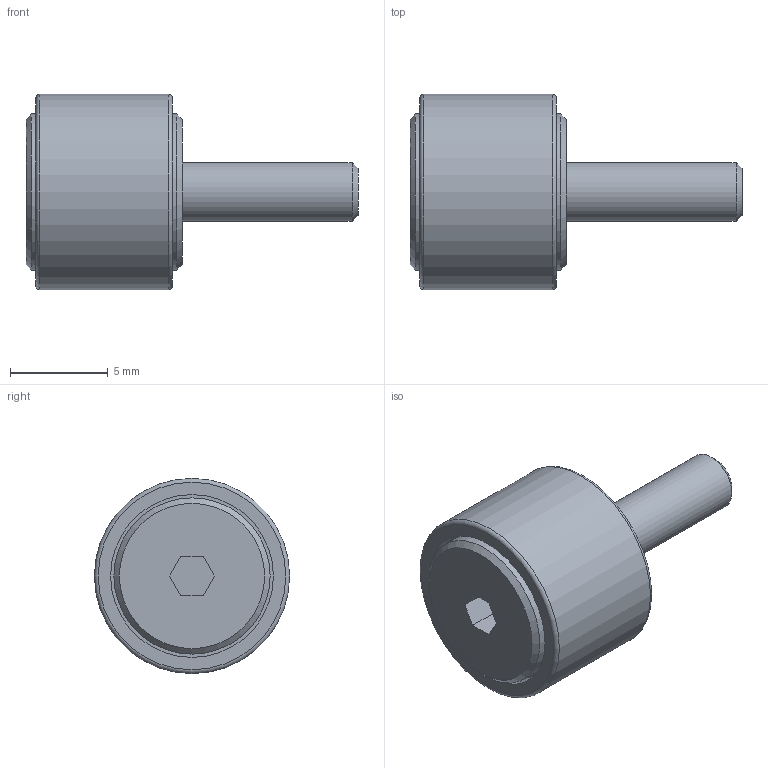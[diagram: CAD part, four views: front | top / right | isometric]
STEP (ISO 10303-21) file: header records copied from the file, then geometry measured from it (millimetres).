
FILE_DESCRIPTION(/* description */ ('Cam Follower with a Hexagon Socket Model CF-A-'),/* implementation_level */ '2;1');
FILE_NAME(/* name */ '',/* time_stamp */ '2025-09-02T10:39:37+09:00',/* author */ ('jhkim'),/* organization */ ('THK'),/* preprocessor_version */ 'ST-DEVELOPER v20.1',/* originating_system */ 'Autodesk Inventor 2026',/* authorisation */ '');
FILE_SCHEMA (('AUTOMOTIVE_DESIGN { 1 0 10303 214 3 1 1 }'));
Length unit declared in the file: millimetre
Products named in the file (1): 캠 플로워
Bounding box: 17 x 10 x 10 mm (x, y, z)
Volume: 649.6 mm3; surface area: 553.5 mm2
Topology: 1 solids, 1 shells, 25 faces, 48 edges, 31 vertices
Faces by surface type: plane 14, cylinder 6, cone 3, torus 2
Full cylindrical faces by diameter (mm): 3 x1, 8 x2, 8.333 x2, 10 x1
Entity records: 682 total; most frequent: DIRECTION 121, CARTESIAN_POINT 105, ORIENTED_EDGE 96, EDGE_CURVE 48, AXIS2_PLACEMENT_3D 47, EDGE_LOOP 31, VERTEX_POINT 31, LINE 27
